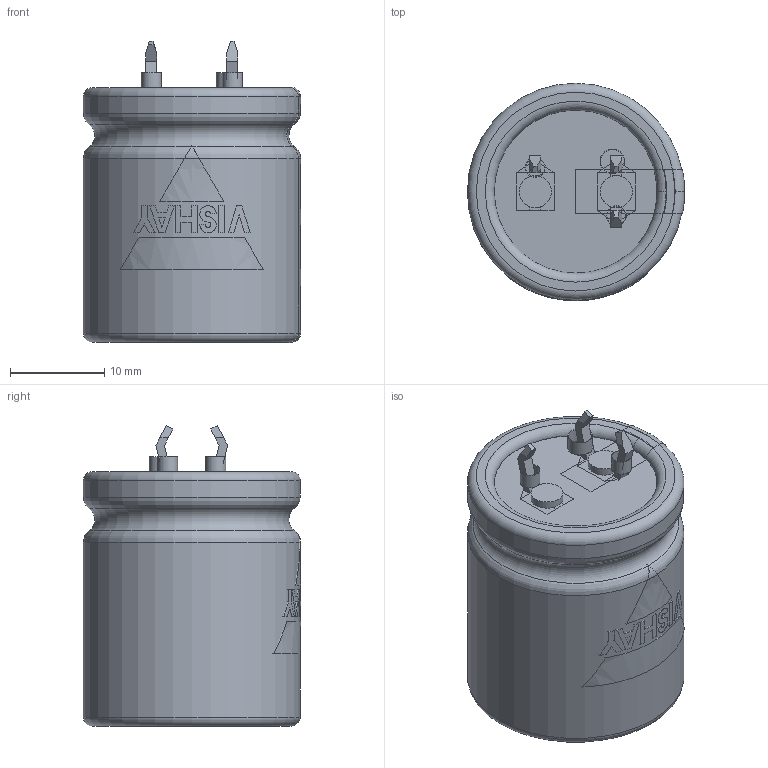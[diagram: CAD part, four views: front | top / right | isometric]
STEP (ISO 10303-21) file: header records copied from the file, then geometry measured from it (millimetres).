
FILE_DESCRIPTION(('FreeCAD Model'),'2;1');
FILE_NAME( 'C:/Users/Gebruiker/Documents/FreeCAD/SnapIn_22x25_3pin_4.0.step', '2020-11-12T21:04:28',('Author'),(''), 'Open CASCADE STEP processor 6.8','FreeCAD','Unknown');
FILE_SCHEMA(('AUTOMOTIVE_DESIGN_CC2 { 1 2 10303 214 -1 1 5 4 }'));
Length unit declared in the file: millimetre
Products named in the file (9): ASSEMBLY; TerminalPlus; Disc; BottomInsulation; Can3D; InkMinusBar; InkLogo; TerminalMinKP; PCBHolesKP
Assembly tree (8 placements, depth 2):
  ASSEMBLY
    TerminalPlus
    Disc
    BottomInsulation
    Can3D
    InkMinusBar
    InkLogo
    TerminalMinKP
    PCBHolesKP
Bounding box: 23.05 x 23.05 x 31.95 mm (x, y, z)
Volume: 12707.2 mm3; surface area: 7036.8 mm2
Topology: 17 solids, 17 shells, 206 faces, 499 edges, 325 vertices
Faces by surface type: plane 155, cylinder 31, torus 20
Full cylindrical faces by diameter (mm): 2 x2, 2.1 x2, 2.5 x1, 2.6 x1, 3.4 x2, 17.3 x1, 18.4 x2, 23 x2
Entity records: 20913 total; most frequent: CARTESIAN_POINT 9743, DIRECTION 1731, ORIENTED_EDGE 998, PCURVE 998, DEFINITIONAL_REPRESENTATION 998, LINE 963, VECTOR 963, EDGE_CURVE 499
